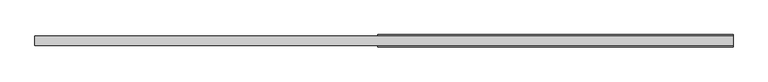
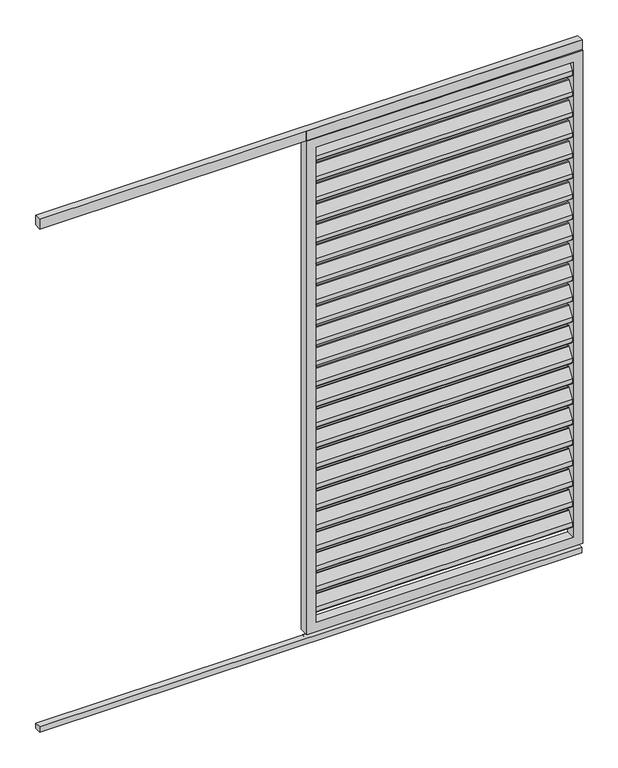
"""IFC4 building model written with IfcOpenShell, lengths in millimetres: proxy geometry, Renson_Camargue_Loggia_Paro_Aluminium : Renson_Camargue_Loggia_Paro_Aluminium."""

from ifc_helpers import new_model, si_unit, point, frame, frame_2d, origin, origin_with_axes, place, context, project, spatial, polyline, circle_curve, trimmed, segment, composite_curve, outline, extrude, source, transform, mapped, element, save


def generic_models_b7cc87ee(model_context):
    return source(origin(), model_context, "Body", "SweptSolid", [
        extrude(outline(composite_curve([segment(trimmed(circle_curve(frame_2d((12.6675921, 2162.6587719)), 3.0), [point((10.1515804, 2164.292689))], [point((15.6675921, 2162.6587719))], False, "CARTESIAN"), True, "CONTINUOUS"), segment(polyline([(15.6675921, 2162.6587719), (15.6675921, 2144.2979873)]), True, "CONTINUOUS"), segment(trimmed(circle_curve(frame_2d((12.6675921, 2144.2979873)), 3.0), [point((15.6675921, 2144.2979873))], [point((15.1836038, 2142.6640702))], False, "CARTESIAN"), True, "CONTINUOUS"), segment(polyline([(15.1836038, 2142.6640702), (-8.8163962, 2105.707311)]), True, "CONTINUOUS"), segment(trimmed(circle_curve(frame_2d((-11.3324079, 2107.3412281)), 3.0), [point((-8.8163962, 2105.707311))], [point((-14.3324079, 2107.3412281))], False, "CARTESIAN"), True, "CONTINUOUS"), segment(polyline([(-14.3324079, 2107.3412281), (-14.3324079, 2126.5906532), (10.1515804, 2164.292689)]), True, "CONTINUOUS")], self_intersect=False)), frame((-532.5, 0.0, 0.0), z_axis=(1.0, 0.0, 0.0), x_axis=(0.0, 1.0, 0.0)), (0.0, 0.0, 1.0), 1065.0),
        extrude(outline(composite_curve([segment(trimmed(circle_curve(frame_2d((12.6675921, 2072.6587719)), 3.0), [point((10.1515804, 2074.292689))], [point((15.6675921, 2072.6587719))], False, "CARTESIAN"), True, "CONTINUOUS"), segment(polyline([(15.6675921, 2072.6587719), (15.6675921, 2054.2979873)]), True, "CONTINUOUS"), segment(trimmed(circle_curve(frame_2d((12.6675921, 2054.2979873)), 3.0), [point((15.6675921, 2054.2979873))], [point((15.1836038, 2052.6640702))], False, "CARTESIAN"), True, "CONTINUOUS"), segment(polyline([(15.1836038, 2052.6640702), (-8.8163962, 2015.707311)]), True, "CONTINUOUS"), segment(trimmed(circle_curve(frame_2d((-11.3324079, 2017.3412281)), 3.0), [point((-8.8163962, 2015.707311))], [point((-14.3324079, 2017.3412281))], False, "CARTESIAN"), True, "CONTINUOUS"), segment(polyline([(-14.3324079, 2017.3412281), (-14.3324079, 2036.5906532), (10.1515804, 2074.292689)]), True, "CONTINUOUS")], self_intersect=False)), frame((-532.5, 0.0, 0.0), z_axis=(1.0, 0.0, 0.0), x_axis=(0.0, 1.0, 0.0)), (0.0, 0.0, 1.0), 1065.0),
        extrude(outline(composite_curve([segment(trimmed(circle_curve(frame_2d((12.6675921, 1982.6587719)), 3.0), [point((10.1515804, 1984.292689))], [point((15.6675921, 1982.6587719))], False, "CARTESIAN"), True, "CONTINUOUS"), segment(polyline([(15.6675921, 1982.6587719), (15.6675921, 1964.2979873)]), True, "CONTINUOUS"), segment(trimmed(circle_curve(frame_2d((12.6675921, 1964.2979873)), 3.0), [point((15.6675921, 1964.2979873))], [point((15.1836038, 1962.6640702))], False, "CARTESIAN"), True, "CONTINUOUS"), segment(polyline([(15.1836038, 1962.6640702), (-8.8163962, 1925.707311)]), True, "CONTINUOUS"), segment(trimmed(circle_curve(frame_2d((-11.3324079, 1927.3412281)), 3.0), [point((-8.8163962, 1925.707311))], [point((-14.3324079, 1927.3412281))], False, "CARTESIAN"), True, "CONTINUOUS"), segment(polyline([(-14.3324079, 1927.3412281), (-14.3324079, 1946.5906532), (10.1515804, 1984.292689)]), True, "CONTINUOUS")], self_intersect=False)), frame((-532.5, 0.0, 0.0), z_axis=(1.0, 0.0, 0.0), x_axis=(0.0, 1.0, 0.0)), (0.0, 0.0, 1.0), 1065.0),
        extrude(outline(composite_curve([segment(trimmed(circle_curve(frame_2d((12.6675921, 1892.6587719)), 3.0), [point((10.1515804, 1894.292689))], [point((15.6675921, 1892.6587719))], False, "CARTESIAN"), True, "CONTINUOUS"), segment(polyline([(15.6675921, 1892.6587719), (15.6675921, 1874.2979873)]), True, "CONTINUOUS"), segment(trimmed(circle_curve(frame_2d((12.6675921, 1874.2979873)), 3.0), [point((15.6675921, 1874.2979873))], [point((15.1836038, 1872.6640702))], False, "CARTESIAN"), True, "CONTINUOUS"), segment(polyline([(15.1836038, 1872.6640702), (-8.8163962, 1835.707311)]), True, "CONTINUOUS"), segment(trimmed(circle_curve(frame_2d((-11.3324079, 1837.3412281)), 3.0), [point((-8.8163962, 1835.707311))], [point((-14.3324079, 1837.3412281))], False, "CARTESIAN"), True, "CONTINUOUS"), segment(polyline([(-14.3324079, 1837.3412281), (-14.3324079, 1856.5906532), (10.1515804, 1894.292689)]), True, "CONTINUOUS")], self_intersect=False)), frame((-532.5, 0.0, 0.0), z_axis=(1.0, 0.0, 0.0), x_axis=(0.0, 1.0, 0.0)), (0.0, 0.0, 1.0), 1065.0),
        extrude(outline(composite_curve([segment(trimmed(circle_curve(frame_2d((12.6675921, 1802.6587719)), 3.0), [point((10.1515804, 1804.292689))], [point((15.6675921, 1802.6587719))], False, "CARTESIAN"), True, "CONTINUOUS"), segment(polyline([(15.6675921, 1802.6587719), (15.6675921, 1784.2979873)]), True, "CONTINUOUS"), segment(trimmed(circle_curve(frame_2d((12.6675921, 1784.2979873)), 3.0), [point((15.6675921, 1784.2979873))], [point((15.1836038, 1782.6640702))], False, "CARTESIAN"), True, "CONTINUOUS"), segment(polyline([(15.1836038, 1782.6640702), (-8.8163962, 1745.707311)]), True, "CONTINUOUS"), segment(trimmed(circle_curve(frame_2d((-11.3324079, 1747.3412281)), 3.0), [point((-8.8163962, 1745.707311))], [point((-14.3324079, 1747.3412281))], False, "CARTESIAN"), True, "CONTINUOUS"), segment(polyline([(-14.3324079, 1747.3412281), (-14.3324079, 1766.5906532), (10.1515804, 1804.292689)]), True, "CONTINUOUS")], self_intersect=False)), frame((-532.5, 0.0, 0.0), z_axis=(1.0, 0.0, 0.0), x_axis=(0.0, 1.0, 0.0)), (0.0, 0.0, 1.0), 1065.0),
        extrude(outline(composite_curve([segment(trimmed(circle_curve(frame_2d((12.6675921, 1712.6587719)), 3.0), [point((10.1515804, 1714.292689))], [point((15.6675921, 1712.6587719))], False, "CARTESIAN"), True, "CONTINUOUS"), segment(polyline([(15.6675921, 1712.6587719), (15.6675921, 1694.2979873)]), True, "CONTINUOUS"), segment(trimmed(circle_curve(frame_2d((12.6675921, 1694.2979873)), 3.0), [point((15.6675921, 1694.2979873))], [point((15.1836038, 1692.6640702))], False, "CARTESIAN"), True, "CONTINUOUS"), segment(polyline([(15.1836038, 1692.6640702), (-8.8163962, 1655.707311)]), True, "CONTINUOUS"), segment(trimmed(circle_curve(frame_2d((-11.3324079, 1657.3412281)), 3.0), [point((-8.8163962, 1655.707311))], [point((-14.3324079, 1657.3412281))], False, "CARTESIAN"), True, "CONTINUOUS"), segment(polyline([(-14.3324079, 1657.3412281), (-14.3324079, 1676.5906532), (10.1515804, 1714.292689)]), True, "CONTINUOUS")], self_intersect=False)), frame((-532.5, 0.0, 0.0), z_axis=(1.0, 0.0, 0.0), x_axis=(0.0, 1.0, 0.0)), (0.0, 0.0, 1.0), 1065.0),
        extrude(outline(composite_curve([segment(trimmed(circle_curve(frame_2d((12.6675921, 1622.6587719)), 3.0), [point((10.1515804, 1624.292689))], [point((15.6675921, 1622.6587719))], False, "CARTESIAN"), True, "CONTINUOUS"), segment(polyline([(15.6675921, 1622.6587719), (15.6675921, 1604.2979873)]), True, "CONTINUOUS"), segment(trimmed(circle_curve(frame_2d((12.6675921, 1604.2979873)), 3.0), [point((15.6675921, 1604.2979873))], [point((15.1836038, 1602.6640702))], False, "CARTESIAN"), True, "CONTINUOUS"), segment(polyline([(15.1836038, 1602.6640702), (-8.8163962, 1565.707311)]), True, "CONTINUOUS"), segment(trimmed(circle_curve(frame_2d((-11.3324079, 1567.3412281)), 3.0), [point((-8.8163962, 1565.707311))], [point((-14.3324079, 1567.3412281))], False, "CARTESIAN"), True, "CONTINUOUS"), segment(polyline([(-14.3324079, 1567.3412281), (-14.3324079, 1586.5906532), (10.1515804, 1624.292689)]), True, "CONTINUOUS")], self_intersect=False)), frame((-532.5, 0.0, 0.0), z_axis=(1.0, 0.0, 0.0), x_axis=(0.0, 1.0, 0.0)), (0.0, 0.0, 1.0), 1065.0),
        extrude(outline(composite_curve([segment(trimmed(circle_curve(frame_2d((12.6675921, 1532.6587719)), 3.0), [point((10.1515804, 1534.292689))], [point((15.6675921, 1532.6587719))], False, "CARTESIAN"), True, "CONTINUOUS"), segment(polyline([(15.6675921, 1532.6587719), (15.6675921, 1514.2979873)]), True, "CONTINUOUS"), segment(trimmed(circle_curve(frame_2d((12.6675921, 1514.2979873)), 3.0), [point((15.6675921, 1514.2979873))], [point((15.1836038, 1512.6640702))], False, "CARTESIAN"), True, "CONTINUOUS"), segment(polyline([(15.1836038, 1512.6640702), (-8.8163962, 1475.707311)]), True, "CONTINUOUS"), segment(trimmed(circle_curve(frame_2d((-11.3324079, 1477.3412281)), 3.0), [point((-8.8163962, 1475.707311))], [point((-14.3324079, 1477.3412281))], False, "CARTESIAN"), True, "CONTINUOUS"), segment(polyline([(-14.3324079, 1477.3412281), (-14.3324079, 1496.5906532), (10.1515804, 1534.292689)]), True, "CONTINUOUS")], self_intersect=False)), frame((-532.5, 0.0, 0.0), z_axis=(1.0, 0.0, 0.0), x_axis=(0.0, 1.0, 0.0)), (0.0, 0.0, 1.0), 1065.0),
        extrude(outline(composite_curve([segment(trimmed(circle_curve(frame_2d((12.6675921, 1442.6587719)), 3.0), [point((10.1515804, 1444.292689))], [point((15.6675921, 1442.6587719))], False, "CARTESIAN"), True, "CONTINUOUS"), segment(polyline([(15.6675921, 1442.6587719), (15.6675921, 1424.2979873)]), True, "CONTINUOUS"), segment(trimmed(circle_curve(frame_2d((12.6675921, 1424.2979873)), 3.0), [point((15.6675921, 1424.2979873))], [point((15.1836038, 1422.6640702))], False, "CARTESIAN"), True, "CONTINUOUS"), segment(polyline([(15.1836038, 1422.6640702), (-8.8163962, 1385.707311)]), True, "CONTINUOUS"), segment(trimmed(circle_curve(frame_2d((-11.3324079, 1387.3412281)), 3.0), [point((-8.8163962, 1385.707311))], [point((-14.3324079, 1387.3412281))], False, "CARTESIAN"), True, "CONTINUOUS"), segment(polyline([(-14.3324079, 1387.3412281), (-14.3324079, 1406.5906532), (10.1515804, 1444.292689)]), True, "CONTINUOUS")], self_intersect=False)), frame((-532.5, 0.0, 0.0), z_axis=(1.0, 0.0, 0.0), x_axis=(0.0, 1.0, 0.0)), (0.0, 0.0, 1.0), 1065.0),
        extrude(outline(composite_curve([segment(trimmed(circle_curve(frame_2d((12.6675921, 1352.6587719)), 3.0), [point((10.1515804, 1354.292689))], [point((15.6675921, 1352.6587719))], False, "CARTESIAN"), True, "CONTINUOUS"), segment(polyline([(15.6675921, 1352.6587719), (15.6675921, 1334.2979873)]), True, "CONTINUOUS"), segment(trimmed(circle_curve(frame_2d((12.6675921, 1334.2979873)), 3.0), [point((15.6675921, 1334.2979873))], [point((15.1836038, 1332.6640702))], False, "CARTESIAN"), True, "CONTINUOUS"), segment(polyline([(15.1836038, 1332.6640702), (-8.8163962, 1295.707311)]), True, "CONTINUOUS"), segment(trimmed(circle_curve(frame_2d((-11.3324079, 1297.3412281)), 3.0), [point((-8.8163962, 1295.707311))], [point((-14.3324079, 1297.3412281))], False, "CARTESIAN"), True, "CONTINUOUS"), segment(polyline([(-14.3324079, 1297.3412281), (-14.3324079, 1316.5906532), (10.1515804, 1354.292689)]), True, "CONTINUOUS")], self_intersect=False)), frame((-532.5, 0.0, 0.0), z_axis=(1.0, 0.0, 0.0), x_axis=(0.0, 1.0, 0.0)), (0.0, 0.0, 1.0), 1065.0),
        extrude(outline(composite_curve([segment(trimmed(circle_curve(frame_2d((12.6675921, 1262.6587719)), 3.0), [point((10.1515804, 1264.292689))], [point((15.6675921, 1262.6587719))], False, "CARTESIAN"), True, "CONTINUOUS"), segment(polyline([(15.6675921, 1262.6587719), (15.6675921, 1244.2979873)]), True, "CONTINUOUS"), segment(trimmed(circle_curve(frame_2d((12.6675921, 1244.2979873)), 3.0), [point((15.6675921, 1244.2979873))], [point((15.1836038, 1242.6640702))], False, "CARTESIAN"), True, "CONTINUOUS"), segment(polyline([(15.1836038, 1242.6640702), (-8.8163962, 1205.707311)]), True, "CONTINUOUS"), segment(trimmed(circle_curve(frame_2d((-11.3324079, 1207.3412281)), 3.0), [point((-8.8163962, 1205.707311))], [point((-14.3324079, 1207.3412281))], False, "CARTESIAN"), True, "CONTINUOUS"), segment(polyline([(-14.3324079, 1207.3412281), (-14.3324079, 1226.5906532), (10.1515804, 1264.292689)]), True, "CONTINUOUS")], self_intersect=False)), frame((-532.5, 0.0, 0.0), z_axis=(1.0, 0.0, 0.0), x_axis=(0.0, 1.0, 0.0)), (0.0, 0.0, 1.0), 1065.0),
        extrude(outline(composite_curve([segment(trimmed(circle_curve(frame_2d((12.6675921, 1172.6587719)), 3.0), [point((10.1515804, 1174.292689))], [point((15.6675921, 1172.6587719))], False, "CARTESIAN"), True, "CONTINUOUS"), segment(polyline([(15.6675921, 1172.6587719), (15.6675921, 1154.2979873)]), True, "CONTINUOUS"), segment(trimmed(circle_curve(frame_2d((12.6675921, 1154.2979873)), 3.0), [point((15.6675921, 1154.2979873))], [point((15.1836038, 1152.6640702))], False, "CARTESIAN"), True, "CONTINUOUS"), segment(polyline([(15.1836038, 1152.6640702), (-8.8163962, 1115.707311)]), True, "CONTINUOUS"), segment(trimmed(circle_curve(frame_2d((-11.3324079, 1117.3412281)), 3.0), [point((-8.8163962, 1115.707311))], [point((-14.3324079, 1117.3412281))], False, "CARTESIAN"), True, "CONTINUOUS"), segment(polyline([(-14.3324079, 1117.3412281), (-14.3324079, 1136.5906532), (10.1515804, 1174.292689)]), True, "CONTINUOUS")], self_intersect=False)), frame((-532.5, 0.0, 0.0), z_axis=(1.0, 0.0, 0.0), x_axis=(0.0, 1.0, 0.0)), (0.0, 0.0, 1.0), 1065.0),
        extrude(outline(composite_curve([segment(trimmed(circle_curve(frame_2d((12.6675921, 1082.6587719)), 3.0), [point((10.1515804, 1084.292689))], [point((15.6675921, 1082.6587719))], False, "CARTESIAN"), True, "CONTINUOUS"), segment(polyline([(15.6675921, 1082.6587719), (15.6675921, 1064.2979873)]), True, "CONTINUOUS"), segment(trimmed(circle_curve(frame_2d((12.6675921, 1064.2979873)), 3.0), [point((15.6675921, 1064.2979873))], [point((15.1836038, 1062.6640702))], False, "CARTESIAN"), True, "CONTINUOUS"), segment(polyline([(15.1836038, 1062.6640702), (-8.8163962, 1025.707311)]), True, "CONTINUOUS"), segment(trimmed(circle_curve(frame_2d((-11.3324079, 1027.3412281)), 3.0), [point((-8.8163962, 1025.707311))], [point((-14.3324079, 1027.3412281))], False, "CARTESIAN"), True, "CONTINUOUS"), segment(polyline([(-14.3324079, 1027.3412281), (-14.3324079, 1046.5906532), (10.1515804, 1084.292689)]), True, "CONTINUOUS")], self_intersect=False)), frame((-532.5, 0.0, 0.0), z_axis=(1.0, 0.0, 0.0), x_axis=(0.0, 1.0, 0.0)), (0.0, 0.0, 1.0), 1065.0),
        extrude(outline(composite_curve([segment(trimmed(circle_curve(frame_2d((12.6675921, 992.6587719)), 3.0), [point((10.1515804, 994.292689))], [point((15.6675921, 992.6587719))], False, "CARTESIAN"), True, "CONTINUOUS"), segment(polyline([(15.6675921, 992.6587719), (15.6675921, 974.2979873)]), True, "CONTINUOUS"), segment(trimmed(circle_curve(frame_2d((12.6675921, 974.2979873)), 3.0), [point((15.6675921, 974.2979873))], [point((15.1836038, 972.6640702))], False, "CARTESIAN"), True, "CONTINUOUS"), segment(polyline([(15.1836038, 972.6640702), (-8.8163962, 935.707311)]), True, "CONTINUOUS"), segment(trimmed(circle_curve(frame_2d((-11.3324079, 937.3412281)), 3.0), [point((-8.8163962, 935.707311))], [point((-14.3324079, 937.3412281))], False, "CARTESIAN"), True, "CONTINUOUS"), segment(polyline([(-14.3324079, 937.3412281), (-14.3324079, 956.5906532), (10.1515804, 994.292689)]), True, "CONTINUOUS")], self_intersect=False)), frame((-532.5, 0.0, 0.0), z_axis=(1.0, 0.0, 0.0), x_axis=(0.0, 1.0, 0.0)), (0.0, 0.0, 1.0), 1065.0),
        extrude(outline(composite_curve([segment(trimmed(circle_curve(frame_2d((12.6675921, 902.6587719)), 3.0), [point((10.1515804, 904.292689))], [point((15.6675921, 902.6587719))], False, "CARTESIAN"), True, "CONTINUOUS"), segment(polyline([(15.6675921, 902.6587719), (15.6675921, 884.2979873)]), True, "CONTINUOUS"), segment(trimmed(circle_curve(frame_2d((12.6675921, 884.2979873)), 3.0), [point((15.6675921, 884.2979873))], [point((15.1836038, 882.6640702))], False, "CARTESIAN"), True, "CONTINUOUS"), segment(polyline([(15.1836038, 882.6640702), (-8.8163962, 845.707311)]), True, "CONTINUOUS"), segment(trimmed(circle_curve(frame_2d((-11.3324079, 847.3412281)), 3.0), [point((-8.8163962, 845.707311))], [point((-14.3324079, 847.3412281))], False, "CARTESIAN"), True, "CONTINUOUS"), segment(polyline([(-14.3324079, 847.3412281), (-14.3324079, 866.5906532), (10.1515804, 904.292689)]), True, "CONTINUOUS")], self_intersect=False)), frame((-532.5, 0.0, 0.0), z_axis=(1.0, 0.0, 0.0), x_axis=(0.0, 1.0, 0.0)), (0.0, 0.0, 1.0), 1065.0),
        extrude(outline(composite_curve([segment(trimmed(circle_curve(frame_2d((12.6675921, 812.6587719)), 3.0), [point((10.1515804, 814.292689))], [point((15.6675921, 812.6587719))], False, "CARTESIAN"), True, "CONTINUOUS"), segment(polyline([(15.6675921, 812.6587719), (15.6675921, 794.2979873)]), True, "CONTINUOUS"), segment(trimmed(circle_curve(frame_2d((12.6675921, 794.2979873)), 3.0), [point((15.6675921, 794.2979873))], [point((15.1836038, 792.6640702))], False, "CARTESIAN"), True, "CONTINUOUS"), segment(polyline([(15.1836038, 792.6640702), (-8.8163962, 755.707311)]), True, "CONTINUOUS"), segment(trimmed(circle_curve(frame_2d((-11.3324079, 757.3412281)), 3.0), [point((-8.8163962, 755.707311))], [point((-14.3324079, 757.3412281))], False, "CARTESIAN"), True, "CONTINUOUS"), segment(polyline([(-14.3324079, 757.3412281), (-14.3324079, 776.5906532), (10.1515804, 814.292689)]), True, "CONTINUOUS")], self_intersect=False)), frame((-532.5, 0.0, 0.0), z_axis=(1.0, 0.0, 0.0), x_axis=(0.0, 1.0, 0.0)), (0.0, 0.0, 1.0), 1065.0),
        extrude(outline(composite_curve([segment(trimmed(circle_curve(frame_2d((12.6675921, 722.6587719)), 3.0), [point((10.1515804, 724.292689))], [point((15.6675921, 722.6587719))], False, "CARTESIAN"), True, "CONTINUOUS"), segment(polyline([(15.6675921, 722.6587719), (15.6675921, 704.2979873)]), True, "CONTINUOUS"), segment(trimmed(circle_curve(frame_2d((12.6675921, 704.2979873)), 3.0), [point((15.6675921, 704.2979873))], [point((15.1836038, 702.6640702))], False, "CARTESIAN"), True, "CONTINUOUS"), segment(polyline([(15.1836038, 702.6640702), (-8.8163962, 665.707311)]), True, "CONTINUOUS"), segment(trimmed(circle_curve(frame_2d((-11.3324079, 667.3412281)), 3.0), [point((-8.8163962, 665.707311))], [point((-14.3324079, 667.3412281))], False, "CARTESIAN"), True, "CONTINUOUS"), segment(polyline([(-14.3324079, 667.3412281), (-14.3324079, 686.5906532), (10.1515804, 724.292689)]), True, "CONTINUOUS")], self_intersect=False)), frame((-532.5, 0.0, 0.0), z_axis=(1.0, 0.0, 0.0), x_axis=(0.0, 1.0, 0.0)), (0.0, 0.0, 1.0), 1065.0),
        extrude(outline(composite_curve([segment(trimmed(circle_curve(frame_2d((12.6675921, 632.6587719)), 3.0), [point((10.1515804, 634.292689))], [point((15.6675921, 632.6587719))], False, "CARTESIAN"), True, "CONTINUOUS"), segment(polyline([(15.6675921, 632.6587719), (15.6675921, 614.2979873)]), True, "CONTINUOUS"), segment(trimmed(circle_curve(frame_2d((12.6675921, 614.2979873)), 3.0), [point((15.6675921, 614.2979873))], [point((15.1836038, 612.6640702))], False, "CARTESIAN"), True, "CONTINUOUS"), segment(polyline([(15.1836038, 612.6640702), (-8.8163962, 575.707311)]), True, "CONTINUOUS"), segment(trimmed(circle_curve(frame_2d((-11.3324079, 577.3412281)), 3.0), [point((-8.8163962, 575.707311))], [point((-14.3324079, 577.3412281))], False, "CARTESIAN"), True, "CONTINUOUS"), segment(polyline([(-14.3324079, 577.3412281), (-14.3324079, 596.5906532), (10.1515804, 634.292689)]), True, "CONTINUOUS")], self_intersect=False)), frame((-532.5, 0.0, 0.0), z_axis=(1.0, 0.0, 0.0), x_axis=(0.0, 1.0, 0.0)), (0.0, 0.0, 1.0), 1065.0),
        extrude(outline(composite_curve([segment(trimmed(circle_curve(frame_2d((12.6675921, 542.6587719)), 3.0), [point((10.1515804, 544.292689))], [point((15.6675921, 542.6587719))], False, "CARTESIAN"), True, "CONTINUOUS"), segment(polyline([(15.6675921, 542.6587719), (15.6675921, 524.2979873)]), True, "CONTINUOUS"), segment(trimmed(circle_curve(frame_2d((12.6675921, 524.2979873)), 3.0), [point((15.6675921, 524.2979873))], [point((15.1836038, 522.6640702))], False, "CARTESIAN"), True, "CONTINUOUS"), segment(polyline([(15.1836038, 522.6640702), (-8.8163962, 485.707311)]), True, "CONTINUOUS"), segment(trimmed(circle_curve(frame_2d((-11.3324079, 487.3412281)), 3.0), [point((-8.8163962, 485.707311))], [point((-14.3324079, 487.3412281))], False, "CARTESIAN"), True, "CONTINUOUS"), segment(polyline([(-14.3324079, 487.3412281), (-14.3324079, 506.5906532), (10.1515804, 544.292689)]), True, "CONTINUOUS")], self_intersect=False)), frame((-532.5, 0.0, 0.0), z_axis=(1.0, 0.0, 0.0), x_axis=(0.0, 1.0, 0.0)), (0.0, 0.0, 1.0), 1065.0),
        extrude(outline(composite_curve([segment(trimmed(circle_curve(frame_2d((12.6675921, 452.6587719)), 3.0), [point((10.1515804, 454.292689))], [point((15.6675921, 452.6587719))], False, "CARTESIAN"), True, "CONTINUOUS"), segment(polyline([(15.6675921, 452.6587719), (15.6675921, 434.2979873)]), True, "CONTINUOUS"), segment(trimmed(circle_curve(frame_2d((12.6675921, 434.2979873)), 3.0), [point((15.6675921, 434.2979873))], [point((15.1836038, 432.6640702))], False, "CARTESIAN"), True, "CONTINUOUS"), segment(polyline([(15.1836038, 432.6640702), (-8.8163962, 395.707311)]), True, "CONTINUOUS"), segment(trimmed(circle_curve(frame_2d((-11.3324079, 397.3412281)), 3.0), [point((-8.8163962, 395.707311))], [point((-14.3324079, 397.3412281))], False, "CARTESIAN"), True, "CONTINUOUS"), segment(polyline([(-14.3324079, 397.3412281), (-14.3324079, 416.5906532), (10.1515804, 454.292689)]), True, "CONTINUOUS")], self_intersect=False)), frame((-532.5, 0.0, 0.0), z_axis=(1.0, 0.0, 0.0), x_axis=(0.0, 1.0, 0.0)), (0.0, 0.0, 1.0), 1065.0),
        extrude(outline(composite_curve([segment(trimmed(circle_curve(frame_2d((12.6675921, 362.6587719)), 3.0), [point((10.1515804, 364.292689))], [point((15.6675921, 362.6587719))], False, "CARTESIAN"), True, "CONTINUOUS"), segment(polyline([(15.6675921, 362.6587719), (15.6675921, 344.2979873)]), True, "CONTINUOUS"), segment(trimmed(circle_curve(frame_2d((12.6675921, 344.2979873)), 3.0), [point((15.6675921, 344.2979873))], [point((15.1836038, 342.6640702))], False, "CARTESIAN"), True, "CONTINUOUS"), segment(polyline([(15.1836038, 342.6640702), (-8.8163962, 305.707311)]), True, "CONTINUOUS"), segment(trimmed(circle_curve(frame_2d((-11.3324079, 307.3412281)), 3.0), [point((-8.8163962, 305.707311))], [point((-14.3324079, 307.3412281))], False, "CARTESIAN"), True, "CONTINUOUS"), segment(polyline([(-14.3324079, 307.3412281), (-14.3324079, 326.5906532), (10.1515804, 364.292689)]), True, "CONTINUOUS")], self_intersect=False)), frame((-532.5, 0.0, 0.0), z_axis=(1.0, 0.0, 0.0), x_axis=(0.0, 1.0, 0.0)), (0.0, 0.0, 1.0), 1065.0),
        extrude(outline(composite_curve([segment(trimmed(circle_curve(frame_2d((12.6675921, 272.6587719)), 3.0), [point((10.1515804, 274.292689))], [point((15.6675921, 272.6587719))], False, "CARTESIAN"), True, "CONTINUOUS"), segment(polyline([(15.6675921, 272.6587719), (15.6675921, 254.2979873)]), True, "CONTINUOUS"), segment(trimmed(circle_curve(frame_2d((12.6675921, 254.2979873)), 3.0), [point((15.6675921, 254.2979873))], [point((15.1836038, 252.6640702))], False, "CARTESIAN"), True, "CONTINUOUS"), segment(polyline([(15.1836038, 252.6640702), (-8.8163962, 215.707311)]), True, "CONTINUOUS"), segment(trimmed(circle_curve(frame_2d((-11.3324079, 217.3412281)), 3.0), [point((-8.8163962, 215.707311))], [point((-14.3324079, 217.3412281))], False, "CARTESIAN"), True, "CONTINUOUS"), segment(polyline([(-14.3324079, 217.3412281), (-14.3324079, 236.5906532), (10.1515804, 274.292689)]), True, "CONTINUOUS")], self_intersect=False)), frame((-532.5, 0.0, 0.0), z_axis=(1.0, 0.0, 0.0), x_axis=(0.0, 1.0, 0.0)), (0.0, 0.0, 1.0), 1065.0),
        extrude(outline(composite_curve([segment(trimmed(circle_curve(frame_2d((12.6675921, 182.6587719)), 3.0), [point((10.1515804, 184.292689))], [point((15.6675921, 182.6587719))], False, "CARTESIAN"), True, "CONTINUOUS"), segment(polyline([(15.6675921, 182.6587719), (15.6675921, 164.2979873)]), True, "CONTINUOUS"), segment(trimmed(circle_curve(frame_2d((12.6675921, 164.2979873)), 3.0), [point((15.6675921, 164.2979873))], [point((15.1836038, 162.6640702))], False, "CARTESIAN"), True, "CONTINUOUS"), segment(polyline([(15.1836038, 162.6640702), (-8.8163962, 125.707311)]), True, "CONTINUOUS"), segment(trimmed(circle_curve(frame_2d((-11.3324079, 127.3412281)), 3.0), [point((-8.8163962, 125.707311))], [point((-14.3324079, 127.3412281))], False, "CARTESIAN"), True, "CONTINUOUS"), segment(polyline([(-14.3324079, 127.3412281), (-14.3324079, 146.5906532), (10.1515804, 184.292689)]), True, "CONTINUOUS")], self_intersect=False)), frame((-532.5, 0.0, 0.0), z_axis=(1.0, 0.0, 0.0), x_axis=(0.0, 1.0, 0.0)), (0.0, 0.0, 1.0), 1065.0),
        extrude(outline(polyline([(572.5, 15.0), (572.5, -15.0), (-1677.5, -15.0), (-1677.5, 15.0), (572.5, 15.0)])), frame((0.0, 0.0, 2207.7138321), z_axis=(0.0, 0.0, 1.0), x_axis=(1.0, 0.0, 0.0)), (0.0, 0.0, 1.0), 42.2861679),
        extrude(outline(polyline([(552.5, 15.0), (552.5, -15.0), (-572.5, -15.0), (-572.5, 15.0), (552.5, 15.0)])), frame((0.0, 0.0, 2207.7138321), z_axis=(0.0, 0.0, 1.0), x_axis=(1.0, 0.0, 0.0)), (0.0, 0.0, 1.0), 42.2861679),
        extrude(outline(polyline([(572.5, -13.0), (-1677.5, -13.0), (-1677.5, 14.0), (572.5, 14.0), (572.5, -13.0)])), origin_with_axes(), (0.0, 0.0, 1.0), 23.0),
        extrude(outline(polyline([(552.5, -13.0), (-572.5, -13.0), (-572.5, 14.0), (552.5, 14.0), (552.5, -13.0)])), origin_with_axes(), (0.0, 0.0, 1.0), 23.0),
        extrude(outline(polyline([(2207.7138321, -572.5), (45.0, -572.5), (45.0, 572.5), (2207.7138321, 572.5), (2207.7138321, -572.5)]), holes=[polyline([(2167.7138321, 532.5), (85.0, 532.5), (85.0, -532.5), (2167.7138321, -532.5), (2167.7138321, 532.5)])]), frame((0.0, -20.0, 0.0), z_axis=(0.0, 1.0, 0.0), x_axis=(0.0, 0.0, 1.0)), (0.0, 0.0, 1.0), 40.0),
    ])


if __name__ == "__main__":
    model = new_model("IFC4")
    model_context = context("Model", 3, world=origin())
    ifc_project = project(units=[si_unit("LENGTHUNIT", "METRE", prefix="MILLI")], contexts=[model_context])
    site = spatial("IfcSite", under=ifc_project)
    building = spatial("IfcBuilding", under=site)
    placement = place(None, origin())
    generic_models_shape = generic_models_b7cc87ee(model_context)
    element("IfcBuildingElementProxy", 1, Name="Renson_Camargue_Loggia_Paro_Aluminium : Renson_Camargue_Loggia_Paro_Aluminium", ObjectType="Renson_Camargue_Loggia_Paro_Aluminium : Renson_Camargue_Loggia_Paro_Aluminium", at=placement, inside=building, context=model_context, shape_type="MappedRepresentation", body=[
        mapped(generic_models_shape, transform((0.0, 0.0, 0.0), x_axis=(1.0, 0.0, 0.0), y_axis=(0.0, 1.0, 0.0), z_axis=(0.0, 0.0, 1.0))),
    ])
    save(model, "model.ifc")
